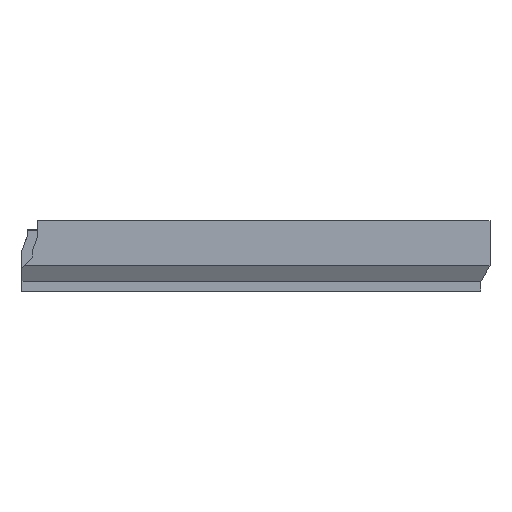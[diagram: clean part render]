
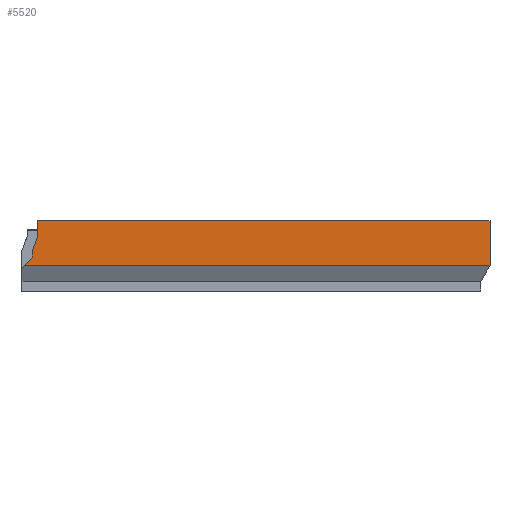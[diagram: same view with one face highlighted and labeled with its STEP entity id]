
A CAD part, left-side view. The second image highlights one B-rep face of the part: STEP entity #5520.
In plain terms, the highlighted planar face has unit normal (-1, 0, 0).
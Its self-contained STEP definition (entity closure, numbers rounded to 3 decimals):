
#1206 = PLANE('',#1207);
#1207 = AXIS2_PLACEMENT_3D('',#1208,#1209,#1210);
#1208 = CARTESIAN_POINT('',(-193.5,-6.1,23.35));
#1209 = DIRECTION('',(0.,1.,-0.));
#1210 = DIRECTION('',(-1.,0.,0.));
#1306 = PLANE('',#1307);
#1307 = AXIS2_PLACEMENT_3D('',#1308,#1309,#1310);
#1308 = CARTESIAN_POINT('',(0.,-3.046,26.9));
#1309 = DIRECTION('',(0.,0.,1.));
#1310 = DIRECTION('',(1.,0.,-0.));
#1394 = VERTEX_POINT('',#1395);
#1395 = CARTESIAN_POINT('',(-195.2,-6.1,21.));
#1409 = PLANE('',#1410);
#1410 = AXIS2_PLACEMENT_3D('',#1411,#1412,#1413);
#1411 = CARTESIAN_POINT('',(-193.5,-6.1,21.));
#1412 = DIRECTION('',(0.,0.94,0.342));
#1413 = DIRECTION('',(-1.,0.,0.));
#1421 = EDGE_CURVE('',#1394,#1422,#1424,.T.);
#1422 = VERTEX_POINT('',#1423);
#1423 = CARTESIAN_POINT('',(-195.2,-6.1,26.9));
#1424 = SURFACE_CURVE('',#1425,(#1429,#1435),.PCURVE_S1.);
#1425 = LINE('',#1426,#1427);
#1426 = CARTESIAN_POINT('',(-195.2,-6.1,24.15));
#1427 = VECTOR('',#1428,1.);
#1428 = DIRECTION('',(0.,0.,1.));
#1429 = PCURVE('',#1206,#1430);
#1430 = DEFINITIONAL_REPRESENTATION('',(#1431),#1434);
#1431 = B_SPLINE_CURVE_WITH_KNOTS('',1,(#1432,#1433),.UNSPECIFIED.,.F.,
  .F.,(2,2),(-3.15,2.75),.PIECEWISE_BEZIER_KNOTS.);
#1432 = CARTESIAN_POINT('',(1.7,-2.35));
#1433 = CARTESIAN_POINT('',(1.7,3.55));
#1434 = ( GEOMETRIC_REPRESENTATION_CONTEXT(2) 
PARAMETRIC_REPRESENTATION_CONTEXT() REPRESENTATION_CONTEXT('2D SPACE',''
  ) );
#1435 = PCURVE('',#1436,#1441);
#1436 = PLANE('',#1437);
#1437 = AXIS2_PLACEMENT_3D('',#1438,#1439,#1440);
#1438 = CARTESIAN_POINT('',(-195.2,152.,24.95));
#1439 = DIRECTION('',(1.,0.,-0.));
#1440 = DIRECTION('',(0.,-1.,0.));
#1441 = DEFINITIONAL_REPRESENTATION('',(#1442),#1445);
#1442 = B_SPLINE_CURVE_WITH_KNOTS('',1,(#1443,#1444),.UNSPECIFIED.,.F.,
  .F.,(2,2),(-3.15,2.75),.PIECEWISE_BEZIER_KNOTS.);
#1443 = CARTESIAN_POINT('',(158.1,3.95));
#1444 = CARTESIAN_POINT('',(158.1,-1.95));
#1445 = ( GEOMETRIC_REPRESENTATION_CONTEXT(2) 
PARAMETRIC_REPRESENTATION_CONTEXT() REPRESENTATION_CONTEXT('2D SPACE',''
  ) );
#5141 = PLANE('',#5142);
#5142 = AXIS2_PLACEMENT_3D('',#5143,#5144,#5145);
#5143 = CARTESIAN_POINT('',(-195.2,-179.2,24.95));
#5144 = DIRECTION('',(0.,1.,0.));
#5145 = DIRECTION('',(1.,0.,0.));
#5302 = EDGE_CURVE('',#1422,#5303,#5305,.T.);
#5303 = VERTEX_POINT('',#5304);
#5304 = CARTESIAN_POINT('',(-195.2,-179.2,26.9));
#5305 = SURFACE_CURVE('',#5306,(#5310,#5317),.PCURVE_S1.);
#5306 = LINE('',#5307,#5308);
#5307 = CARTESIAN_POINT('',(-195.2,152.,26.9));
#5308 = VECTOR('',#5309,1.);
#5309 = DIRECTION('',(0.,-1.,0.));
#5310 = PCURVE('',#1306,#5311);
#5311 = DEFINITIONAL_REPRESENTATION('',(#5312),#5316);
#5312 = LINE('',#5313,#5314);
#5313 = CARTESIAN_POINT('',(-195.2,155.046));
#5314 = VECTOR('',#5315,1.);
#5315 = DIRECTION('',(0.,-1.));
#5316 = ( GEOMETRIC_REPRESENTATION_CONTEXT(2) 
PARAMETRIC_REPRESENTATION_CONTEXT() REPRESENTATION_CONTEXT('2D SPACE',''
  ) );
#5317 = PCURVE('',#1436,#5318);
#5318 = DEFINITIONAL_REPRESENTATION('',(#5319),#5323);
#5319 = LINE('',#5320,#5321);
#5320 = CARTESIAN_POINT('',(0.,-1.95));
#5321 = VECTOR('',#5322,1.);
#5322 = DIRECTION('',(1.,0.));
#5323 = ( GEOMETRIC_REPRESENTATION_CONTEXT(2) 
PARAMETRIC_REPRESENTATION_CONTEXT() REPRESENTATION_CONTEXT('2D SPACE',''
  ) );
#5396 = PLANE('',#5397);
#5397 = AXIS2_PLACEMENT_3D('',#5398,#5399,#5400);
#5398 = CARTESIAN_POINT('',(-193.5,-4.1,13.));
#5399 = DIRECTION('',(0.,0.73,0.684));
#5400 = DIRECTION('',(-1.,0.,0.));
#5421 = PLANE('',#5422);
#5422 = AXIS2_PLACEMENT_3D('',#5423,#5424,#5425);
#5423 = CARTESIAN_POINT('',(-193.5,-4.1,15.5));
#5424 = DIRECTION('',(0.,1.,-0.));
#5425 = DIRECTION('',(-1.,0.,0.));
#5520 = ADVANCED_FACE('',(#5521),#1436,.F.);
#5521 = FACE_BOUND('',#5522,.F.);
#5522 = EDGE_LOOP('',(#5523,#5524,#5547,#5575,#5596,#5617,#5636));
#5523 = ORIENTED_EDGE('',*,*,#5302,.T.);
#5524 = ORIENTED_EDGE('',*,*,#5525,.T.);
#5525 = EDGE_CURVE('',#5303,#5526,#5528,.T.);
#5526 = VERTEX_POINT('',#5527);
#5527 = CARTESIAN_POINT('',(-195.2,-179.2,9.762));
#5528 = SURFACE_CURVE('',#5529,(#5533,#5540),.PCURVE_S1.);
#5529 = LINE('',#5530,#5531);
#5530 = CARTESIAN_POINT('',(-195.2,-179.2,26.9));
#5531 = VECTOR('',#5532,1.);
#5532 = DIRECTION('',(0.,0.,-1.));
#5533 = PCURVE('',#1436,#5534);
#5534 = DEFINITIONAL_REPRESENTATION('',(#5535),#5539);
#5535 = LINE('',#5536,#5537);
#5536 = CARTESIAN_POINT('',(331.2,-1.95));
#5537 = VECTOR('',#5538,1.);
#5538 = DIRECTION('',(0.,1.));
#5539 = ( GEOMETRIC_REPRESENTATION_CONTEXT(2) 
PARAMETRIC_REPRESENTATION_CONTEXT() REPRESENTATION_CONTEXT('2D SPACE',''
  ) );
#5540 = PCURVE('',#5141,#5541);
#5541 = DEFINITIONAL_REPRESENTATION('',(#5542),#5546);
#5542 = LINE('',#5543,#5544);
#5543 = CARTESIAN_POINT('',(0.,-1.95));
#5544 = VECTOR('',#5545,1.);
#5545 = DIRECTION('',(0.,1.));
#5546 = ( GEOMETRIC_REPRESENTATION_CONTEXT(2) 
PARAMETRIC_REPRESENTATION_CONTEXT() REPRESENTATION_CONTEXT('2D SPACE',''
  ) );
#5547 = ORIENTED_EDGE('',*,*,#5548,.F.);
#5548 = EDGE_CURVE('',#5549,#5526,#5551,.T.);
#5549 = VERTEX_POINT('',#5550);
#5550 = CARTESIAN_POINT('',(-195.2,-1.065,9.762));
#5551 = SURFACE_CURVE('',#5552,(#5556,#5563),.PCURVE_S1.);
#5552 = LINE('',#5553,#5554);
#5553 = CARTESIAN_POINT('',(-195.2,152.,9.762));
#5554 = VECTOR('',#5555,1.);
#5555 = DIRECTION('',(0.,-1.,0.));
#5556 = PCURVE('',#1436,#5557);
#5557 = DEFINITIONAL_REPRESENTATION('',(#5558),#5562);
#5558 = LINE('',#5559,#5560);
#5559 = CARTESIAN_POINT('',(0.,15.188));
#5560 = VECTOR('',#5561,1.);
#5561 = DIRECTION('',(1.,0.));
#5562 = ( GEOMETRIC_REPRESENTATION_CONTEXT(2) 
PARAMETRIC_REPRESENTATION_CONTEXT() REPRESENTATION_CONTEXT('2D SPACE',''
  ) );
#5563 = PCURVE('',#5564,#5569);
#5564 = PLANE('',#5565);
#5565 = AXIS2_PLACEMENT_3D('',#5566,#5567,#5568);
#5566 = CARTESIAN_POINT('',(-193.45,-12.725,6.731));
#5567 = DIRECTION('',(-0.866,0.,-0.5));
#5568 = DIRECTION('',(0.,-1.,
    0.));
#5569 = DEFINITIONAL_REPRESENTATION('',(#5570),#5574);
#5570 = LINE('',#5571,#5572);
#5571 = CARTESIAN_POINT('',(-164.725,3.519));
#5572 = VECTOR('',#5573,1.);
#5573 = DIRECTION('',(1.,0.));
#5574 = ( GEOMETRIC_REPRESENTATION_CONTEXT(2) 
PARAMETRIC_REPRESENTATION_CONTEXT() REPRESENTATION_CONTEXT('2D SPACE',''
  ) );
#5575 = ORIENTED_EDGE('',*,*,#5576,.T.);
#5576 = EDGE_CURVE('',#5549,#5577,#5579,.T.);
#5577 = VERTEX_POINT('',#5578);
#5578 = CARTESIAN_POINT('',(-195.2,-4.1,13.));
#5579 = SURFACE_CURVE('',#5580,(#5584,#5590),.PCURVE_S1.);
#5580 = LINE('',#5581,#5582);
#5581 = CARTESIAN_POINT('',(-195.2,29.429,-22.764));
#5582 = VECTOR('',#5583,1.);
#5583 = DIRECTION('',(0.,-0.684,0.73));
#5584 = PCURVE('',#1436,#5585);
#5585 = DEFINITIONAL_REPRESENTATION('',(#5586),#5589);
#5586 = B_SPLINE_CURVE_WITH_KNOTS('',1,(#5587,#5588),.UNSPECIFIED.,.F.,
  .F.,(2,2),(44.584,49.023),.PIECEWISE_BEZIER_KNOTS.);
#5587 = CARTESIAN_POINT('',(153.065,15.188));
#5588 = CARTESIAN_POINT('',(156.1,11.95));
#5589 = ( GEOMETRIC_REPRESENTATION_CONTEXT(2) 
PARAMETRIC_REPRESENTATION_CONTEXT() REPRESENTATION_CONTEXT('2D SPACE',''
  ) );
#5590 = PCURVE('',#5396,#5591);
#5591 = DEFINITIONAL_REPRESENTATION('',(#5592),#5595);
#5592 = B_SPLINE_CURVE_WITH_KNOTS('',1,(#5593,#5594),.UNSPECIFIED.,.F.,
  .F.,(2,2),(44.584,49.023),.PIECEWISE_BEZIER_KNOTS.);
#5593 = CARTESIAN_POINT('',(1.7,-4.438));
#5594 = CARTESIAN_POINT('',(1.7,0.));
#5595 = ( GEOMETRIC_REPRESENTATION_CONTEXT(2) 
PARAMETRIC_REPRESENTATION_CONTEXT() REPRESENTATION_CONTEXT('2D SPACE',''
  ) );
#5596 = ORIENTED_EDGE('',*,*,#5597,.T.);
#5597 = EDGE_CURVE('',#5577,#5598,#5600,.T.);
#5598 = VERTEX_POINT('',#5599);
#5599 = CARTESIAN_POINT('',(-195.2,-4.1,15.5));
#5600 = SURFACE_CURVE('',#5601,(#5605,#5611),.PCURVE_S1.);
#5601 = LINE('',#5602,#5603);
#5602 = CARTESIAN_POINT('',(-195.2,-4.1,20.225));
#5603 = VECTOR('',#5604,1.);
#5604 = DIRECTION('',(0.,0.,1.));
#5605 = PCURVE('',#1436,#5606);
#5606 = DEFINITIONAL_REPRESENTATION('',(#5607),#5610);
#5607 = B_SPLINE_CURVE_WITH_KNOTS('',1,(#5608,#5609),.UNSPECIFIED.,.F.,
  .F.,(2,2),(-7.225,-4.725),.PIECEWISE_BEZIER_KNOTS.);
#5608 = CARTESIAN_POINT('',(156.1,11.95));
#5609 = CARTESIAN_POINT('',(156.1,9.45));
#5610 = ( GEOMETRIC_REPRESENTATION_CONTEXT(2) 
PARAMETRIC_REPRESENTATION_CONTEXT() REPRESENTATION_CONTEXT('2D SPACE',''
  ) );
#5611 = PCURVE('',#5421,#5612);
#5612 = DEFINITIONAL_REPRESENTATION('',(#5613),#5616);
#5613 = B_SPLINE_CURVE_WITH_KNOTS('',1,(#5614,#5615),.UNSPECIFIED.,.F.,
  .F.,(2,2),(-7.225,-4.725),.PIECEWISE_BEZIER_KNOTS.);
#5614 = CARTESIAN_POINT('',(1.7,-2.5));
#5615 = CARTESIAN_POINT('',(1.7,0.));
#5616 = ( GEOMETRIC_REPRESENTATION_CONTEXT(2) 
PARAMETRIC_REPRESENTATION_CONTEXT() REPRESENTATION_CONTEXT('2D SPACE',''
  ) );
#5617 = ORIENTED_EDGE('',*,*,#5618,.T.);
#5618 = EDGE_CURVE('',#5598,#1394,#5619,.T.);
#5619 = SURFACE_CURVE('',#5620,(#5624,#5630),.PCURVE_S1.);
#5620 = LINE('',#5621,#5622);
#5621 = CARTESIAN_POINT('',(-195.2,2.498,-2.644));
#5622 = VECTOR('',#5623,1.);
#5623 = DIRECTION('',(0.,-0.342,0.94));
#5624 = PCURVE('',#1436,#5625);
#5625 = DEFINITIONAL_REPRESENTATION('',(#5626),#5629);
#5626 = B_SPLINE_CURVE_WITH_KNOTS('',1,(#5627,#5628),.UNSPECIFIED.,.F.,
  .F.,(2,2),(19.306,25.159),.PIECEWISE_BEZIER_KNOTS.);
#5627 = CARTESIAN_POINT('',(156.1,9.45));
#5628 = CARTESIAN_POINT('',(158.1,3.95));
#5629 = ( GEOMETRIC_REPRESENTATION_CONTEXT(2) 
PARAMETRIC_REPRESENTATION_CONTEXT() REPRESENTATION_CONTEXT('2D SPACE',''
  ) );
#5630 = PCURVE('',#1409,#5631);
#5631 = DEFINITIONAL_REPRESENTATION('',(#5632),#5635);
#5632 = B_SPLINE_CURVE_WITH_KNOTS('',1,(#5633,#5634),.UNSPECIFIED.,.F.,
  .F.,(2,2),(19.306,25.159),.PIECEWISE_BEZIER_KNOTS.);
#5633 = CARTESIAN_POINT('',(1.7,-5.852));
#5634 = CARTESIAN_POINT('',(1.7,0.));
#5635 = ( GEOMETRIC_REPRESENTATION_CONTEXT(2) 
PARAMETRIC_REPRESENTATION_CONTEXT() REPRESENTATION_CONTEXT('2D SPACE',''
  ) );
#5636 = ORIENTED_EDGE('',*,*,#1421,.T.);
